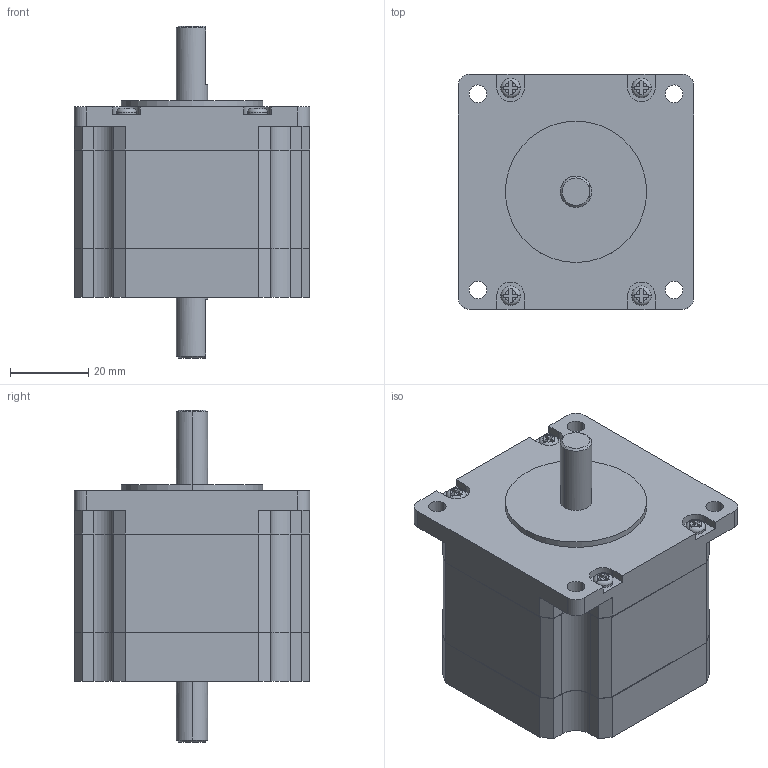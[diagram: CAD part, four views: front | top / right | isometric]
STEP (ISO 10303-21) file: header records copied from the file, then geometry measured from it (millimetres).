
FILE_DESCRIPTION (( 'STEP AP214' ), '1' );
FILE_NAME ('TS3624N21.STEP', '2011-09-15T09:00:26', ( '' ), ( '' ), 'SwSTEP 2.0', 'SolidWorks 2010', '' );
FILE_SCHEMA (( 'AUTOMOTIVE_DESIGN' ));
Length unit declared in the file: millimetre
Products named in the file (1): TS3624N21
Bounding box: 60 x 60 x 84.6 mm (x, y, z)
Volume: 159247.4 mm3; surface area: 19355.3 mm2
Topology: 1 solids, 1 shells, 213 faces, 590 edges, 388 vertices
Faces by surface type: plane 139, cylinder 62, torus 8, cone 4
Entity records: 7222 total; most frequent: CARTESIAN_POINT 1376, ORIENTED_EDGE 1180, DIRECTION 1142, EDGE_CURVE 590, VECTOR 394, LINE 394, VERTEX_POINT 388, AXIS2_PLACEMENT_3D 374
